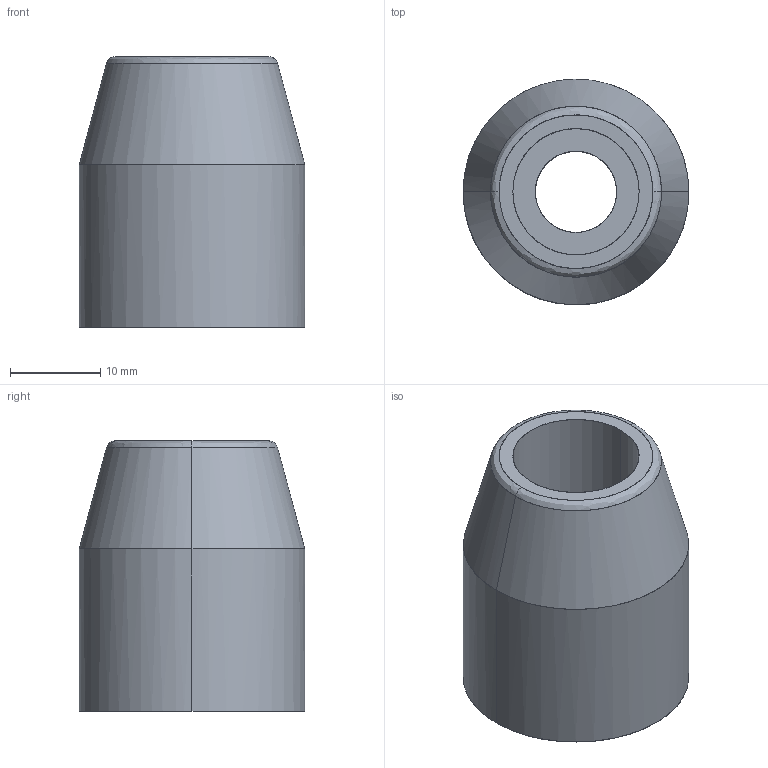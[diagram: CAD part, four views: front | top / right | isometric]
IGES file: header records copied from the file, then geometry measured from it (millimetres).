
Global section: file name: E:\UnigraphicsGraphicData\MISUMI_PRESS-PARTS\IGES\3d_lpu25-30_01656_r00.igs; native system: NX V5.0; preprocessor: UGS NX IGES V5.0; author: MISUMI; date: 20110105.161228; units: millimetre
Bounding box: 25 x 25 x 30 mm (x, y, z)
Surface area: 3907.9 mm2 (no closed solid volume)
Topology: 0 solids, 0 shells, 13 faces, 88 edges, 88 vertices
Faces by surface type: bspline 13
